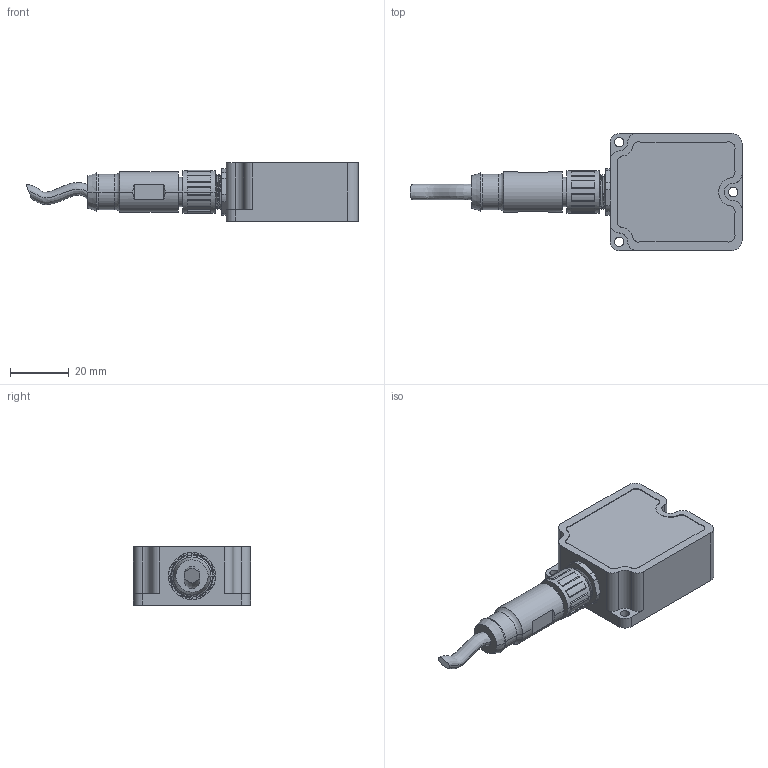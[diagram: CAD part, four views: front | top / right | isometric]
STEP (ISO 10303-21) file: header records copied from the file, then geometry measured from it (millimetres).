
FILE_DESCRIPTION (( 'STEP AP214' ), '1' );
FILE_NAME ('HI14XXX_3Dֱͷ.STEP', '2023-08-17T09:48:00', ( '' ), ( '' ), 'SwSTEP 2.0', 'SolidWorks 2016', '' );
FILE_SCHEMA (( 'AUTOMOTIVE_DESIGN' ));
Length unit declared in the file: millimetre
Products named in the file (1): HI14XXX_3Dֱͷ
Bounding box: 113.44 x 40 x 20 mm (x, y, z)
Volume: 18336.5 mm3; surface area: 18094.6 mm2
Topology: 4 solids, 4 shells, 376 faces, 984 edges, 634 vertices
Faces by surface type: cylinder 199, plane 134, cone 24, torus 14, bspline 5
Entity records: 17816 total; most frequent: CARTESIAN_POINT 4203, DIRECTION 2070, ORIENTED_EDGE 1940, EDGE_CURVE 970, AXIS2_PLACEMENT_3D 795, VERTEX_POINT 634, VECTOR 480, LINE 480
